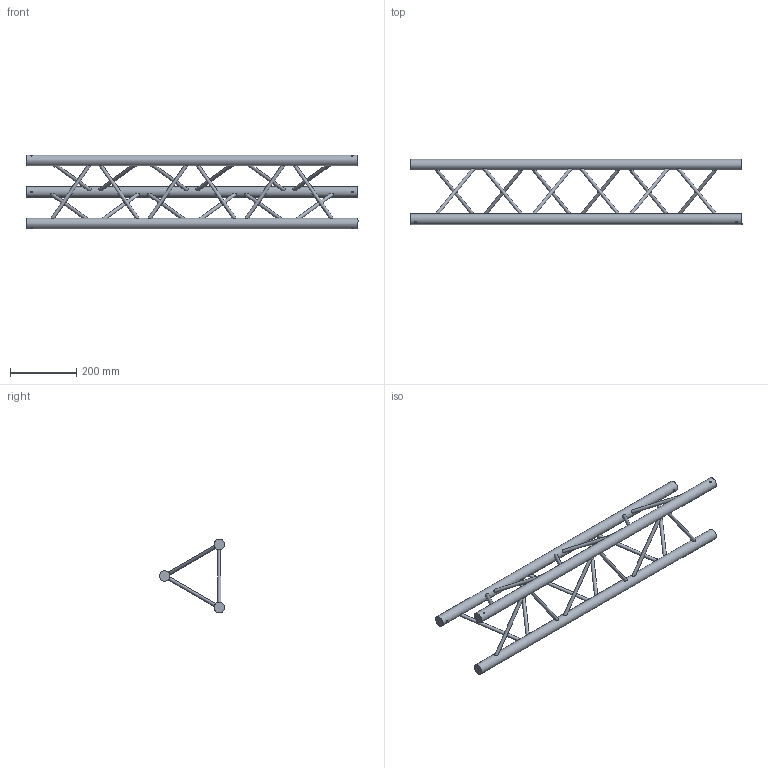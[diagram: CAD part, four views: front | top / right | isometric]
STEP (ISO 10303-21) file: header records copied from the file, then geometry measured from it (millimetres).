
FILE_DESCRIPTION(/* description */ (''),/* implementation_level */ '2;1');
FILE_NAME(/* name */ 'M:\Symbolen_NIEUW\STP\20-er truss\E20D\E20D-L100_111020015.stp',/* time_stamp */ '2017-11-16T13:47:50+01:00',/* author */ ('Kees'),/* organization */ (''),/* preprocessor_version */ 'ST-DEVELOPER v16.13',/* originating_system */ 'Autodesk Inventor 2018',/* authorisation */ '');
FILE_SCHEMA (('AUTOMOTIVE_DESIGN { 1 0 10303 214 3 1 1 }'));
Length unit declared in the file: millimetre
Products named in the file (1): 160008218
Bounding box: 1000 x 196.54 x 222 mm (x, y, z)
Volume: 2621088.3 mm3; surface area: 421949.4 mm2
Topology: 19 solids, 21 shells, 147 faces, 279 edges, 174 vertices
Faces by surface type: plane 78, cylinder 69
Full cylindrical faces by diameter (mm): 5 x6, 10 x18, 32 x3
Entity records: 3891 total; most frequent: CARTESIAN_POINT 982, DIRECTION 596, ORIENTED_EDGE 516, EDGE_CURVE 258, AXIS2_PLACEMENT_3D 256, VERTEX_POINT 198, EDGE_LOOP 192, ELLIPSE 108
